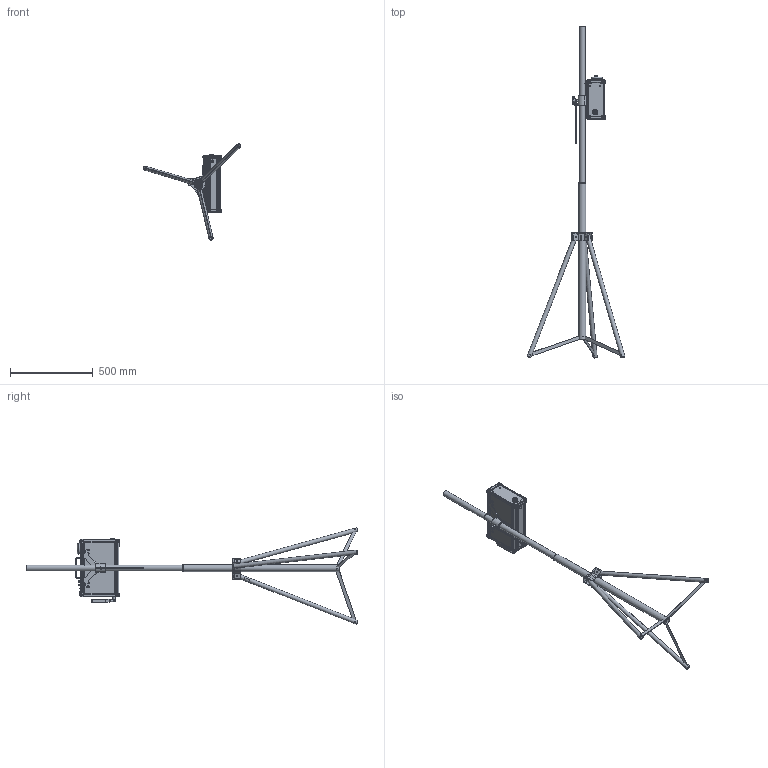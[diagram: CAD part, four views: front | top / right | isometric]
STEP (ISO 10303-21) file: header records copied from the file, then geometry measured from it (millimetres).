
FILE_DESCRIPTION(/* description */ ('','CAx-IF Rec.Pracs.---Representation and Presentation of Product Manufacturing Information (PMI)---4.0---2014-10-13'),/* implementation_level */ '2;1');
FILE_NAME(/* name */ 'C:\Releases\PCS\3d_PCS\211112\BASIC-211112\BASIC-211112_website\PCS - 3d_PCS - BASIC - Pole mount.stp',/* time_stamp */ '2023-12-13T17:15:34+01:00',/* author */ ('jbs3'),/* organization */ (''),/* preprocessor_version */ 'ST-DEVELOPER v17',/* originating_system */ 'Autodesk Inventor 2018',/* authorisation */ '');
FILE_SCHEMA (('AP242_MANAGED_MODEL_BASED_3D_ENGINEERING_MIM_LF { 1 0 10303 442 1 1 4 }'));
Products named in the file (1): 3d_PCS -  BASIC - Pole mount - Dummy
Bounding box: 592.69 x 2009.05 x 584.54 mm (x, y, z)
Volume: 2155300.4 mm3; surface area: 1960076.1 mm2
Topology: 81 solids, 85 shells, 4363 faces, 11304 edges, 7266 vertices
Faces by surface type: plane 1689, cylinder 1499, bspline 471, torus 267, cone 245, sphere 192
Full cylindrical faces by diameter (mm): 0.7 x68, 0.917 x2, 0.92 x4, 1 x37, 1.1 x5, 1.15 x68, 1.442 x2, 2 x2, 2.013 x3, 2.459 x17, 2.5 x6, 3 x17, 3.2 x10, 3.3 x2, 4 x3, 4.134 x5, 4.2 x4, 4.5 x2, 5 x44, 5.2 x12, 5.5 x8, 5.7 x5, 5.84 x3, 6 x11, 6.223 x1, 6.5 x6, 6.647 x1, 7.2 x6, 7.4 x4, 7.84 x3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
Entity records: 169812 total; most frequent: CARTESIAN_POINT 58009, DIRECTION 22591, ORIENTED_EDGE 22378, EDGE_CURVE 11197, AXIS2_PLACEMENT_3D 8700, VERTEX_POINT 7268, LINE 5199, VECTOR 5199
